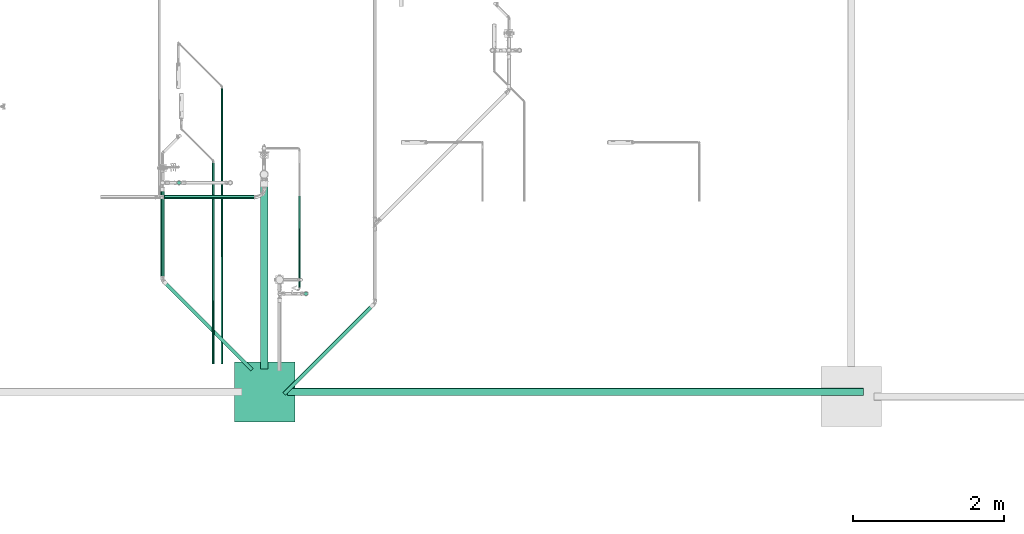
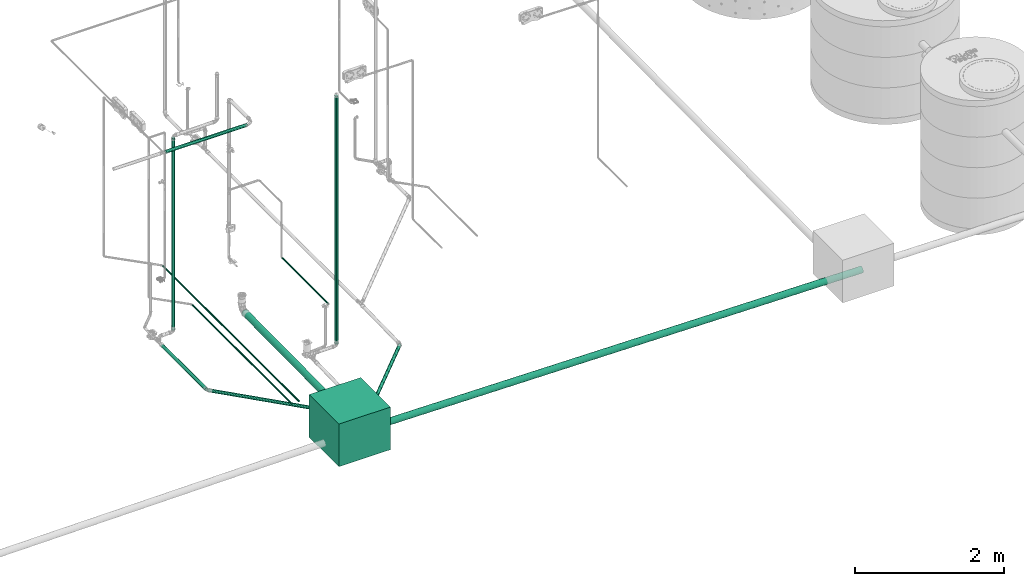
# One storey, part 13 of 589: 11 flow segments, 1 flow terminal.
"""IFC2X3 building model written with IfcOpenShell, lengths in millimetres."""

from ifc_helpers import new_model, entity, si_unit, converted_unit, derived_unit, direction, frame, frame_2d, origin, origin_2d_with_axis, place, context, subcontext, project, spatial, polyline, rectangle, circle, outline, extrude, source, transform, mapped, material, material_list, type_object, type_shapes, element, save


model = new_model("IFC2X3")

# Units and contexts
model_context = context("Model", 3, precision=0.01, world=origin(), true_north=direction((6.123031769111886e-17, 1.0)))
body_context = subcontext(model_context, "Body", "Model", "MODEL_VIEW")
ifc_project = project(units=[si_unit("LENGTHUNIT", "METRE", prefix="MILLI"), si_unit("AREAUNIT", "SQUARE_METRE"), si_unit("VOLUMEUNIT", "CUBIC_METRE"), converted_unit("PLANEANGLEUNIT", "DEGREE", entity("IfcRatioMeasure", 0.017453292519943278), si_unit("PLANEANGLEUNIT", "RADIAN"), dimensions=[0, 0, 0, 0, 0, 0, 0]), si_unit("MASSUNIT", "GRAM", prefix="KILO"), derived_unit("MASSDENSITYUNIT", [(si_unit("MASSUNIT", "GRAM", prefix="KILO"), 1), (si_unit("LENGTHUNIT", "METRE"), -3)]), derived_unit("IONCONCENTRATIONUNIT", [(si_unit("MASSUNIT", "GRAM", prefix="KILO"), 1), (si_unit("LENGTHUNIT", "METRE"), -3)]), derived_unit("MOMENTOFINERTIAUNIT", [(si_unit("LENGTHUNIT", "METRE"), 4)]), si_unit("TIMEUNIT", "SECOND"), si_unit("FREQUENCYUNIT", "HERTZ"), si_unit("THERMODYNAMICTEMPERATUREUNIT", "DEGREE_CELSIUS"), derived_unit("THERMALTRANSMITTANCEUNIT", [(si_unit("MASSUNIT", "GRAM", prefix="KILO"), 1), (si_unit("THERMODYNAMICTEMPERATUREUNIT", "KELVIN"), -1), (si_unit("TIMEUNIT", "SECOND"), -3)]), derived_unit("THERMALCONDUCTANCEUNIT", [(si_unit("MASSUNIT", "GRAM", prefix="KILO"), 1), (si_unit("THERMODYNAMICTEMPERATUREUNIT", "KELVIN"), -1), (si_unit("TIMEUNIT", "SECOND"), -3), (si_unit("LENGTHUNIT", "METRE"), 1)]), derived_unit("VOLUMETRICFLOWRATEUNIT", [(si_unit("LENGTHUNIT", "METRE"), 3), (si_unit("TIMEUNIT", "SECOND"), -1)]), derived_unit("MASSFLOWRATEUNIT", [(si_unit("MASSUNIT", "GRAM", prefix="KILO"), 1), (si_unit("TIMEUNIT", "SECOND"), -1)]), derived_unit("ROTATIONALFREQUENCYUNIT", [(si_unit("TIMEUNIT", "SECOND"), -1)]), si_unit("ELECTRICCURRENTUNIT", "AMPERE"), si_unit("ELECTRICVOLTAGEUNIT", "VOLT"), si_unit("POWERUNIT", "WATT"), si_unit("FORCEUNIT", "NEWTON", prefix="KILO"), si_unit("ILLUMINANCEUNIT", "LUX"), si_unit("LUMINOUSFLUXUNIT", "LUMEN"), si_unit("LUMINOUSINTENSITYUNIT", "CANDELA"), derived_unit("USERDEFINED", [(si_unit("MASSUNIT", "GRAM", prefix="KILO"), -1), (si_unit("LENGTHUNIT", "METRE"), -2), (si_unit("TIMEUNIT", "SECOND"), 3), (si_unit("LUMINOUSFLUXUNIT", "LUMEN"), 1)]), derived_unit("USERDEFINED", [(si_unit("MASSUNIT", "GRAM", prefix="KILO"), 1), (si_unit("TIMEUNIT", "SECOND"), -3), (si_unit("LENGTHUNIT", "METRE"), 3), (si_unit("ELECTRICCURRENTUNIT", "AMPERE"), -2)]), derived_unit("SOUNDPOWERUNIT", [(si_unit("MASSUNIT", "GRAM", prefix="KILO"), 1), (si_unit("TIMEUNIT", "SECOND"), -3), (si_unit("LENGTHUNIT", "METRE"), 2)]), derived_unit("SOUNDPRESSUREUNIT", [(si_unit("MASSUNIT", "GRAM", prefix="KILO"), 1), (si_unit("LENGTHUNIT", "METRE"), -1), (si_unit("TIMEUNIT", "SECOND"), -2)]), derived_unit("LINEARVELOCITYUNIT", [(si_unit("LENGTHUNIT", "METRE"), 1), (si_unit("TIMEUNIT", "SECOND"), -1)]), si_unit("PRESSUREUNIT", "PASCAL"), derived_unit("USERDEFINED", [(si_unit("MASSUNIT", "GRAM", prefix="KILO"), 1), (si_unit("LENGTHUNIT", "METRE"), -2), (si_unit("TIMEUNIT", "SECOND"), -2)]), derived_unit("LINEARFORCEUNIT", [(si_unit("MASSUNIT", "GRAM", prefix="KILO"), 1), (si_unit("TIMEUNIT", "SECOND"), -2)]), derived_unit("PLANARFORCEUNIT", [(si_unit("MASSUNIT", "GRAM", prefix="KILO"), 1), (si_unit("LENGTHUNIT", "METRE"), -1), (si_unit("TIMEUNIT", "SECOND"), -2)]), derived_unit("SPECIFICHEATCAPACITYUNIT", [(si_unit("THERMODYNAMICTEMPERATUREUNIT", "KELVIN"), -1), (si_unit("LENGTHUNIT", "METRE"), 2), (si_unit("TIMEUNIT", "SECOND"), -2)]), derived_unit("HEATINGVALUEUNIT", [(si_unit("LENGTHUNIT", "METRE"), 2), (si_unit("TIMEUNIT", "SECOND"), -2)]), derived_unit("VAPORPERMEABILITYUNIT", [(si_unit("LENGTHUNIT", "METRE"), -1), (si_unit("TIMEUNIT", "SECOND"), 1)]), derived_unit("DYNAMICVISCOSITYUNIT", [(si_unit("MASSUNIT", "GRAM", prefix="KILO"), 1), (si_unit("TIMEUNIT", "SECOND"), -1), (si_unit("LENGTHUNIT", "METRE"), -1)]), derived_unit("THERMALEXPANSIONCOEFFICIENTUNIT", [(si_unit("THERMODYNAMICTEMPERATUREUNIT", "KELVIN"), -1)]), derived_unit("MODULUSOFELASTICITYUNIT", [(si_unit("MASSUNIT", "GRAM", prefix="KILO"), 1), (si_unit("LENGTHUNIT", "METRE"), -1), (si_unit("TIMEUNIT", "SECOND"), -2)]), derived_unit("ISOTHERMALMOISTURECAPACITYUNIT", [(si_unit("LENGTHUNIT", "METRE"), 3), (si_unit("MASSUNIT", "GRAM", prefix="KILO"), -1)]), derived_unit("MOISTUREDIFFUSIVITYUNIT", [(si_unit("TIMEUNIT", "SECOND"), -1), (si_unit("LENGTHUNIT", "METRE"), 2)])], contexts=[model_context])

# Site, building, storey
site_placement = place(None, origin())
site = spatial("IfcSite", under=ifc_project, at=site_placement, Name="Default", CompositionType="ELEMENT")
building_placement = place(site_placement, origin())
building = spatial("IfcBuilding", under=site, at=building_placement, CompositionType="ELEMENT")
storey_placement = place(building_placement, frame((0.0, 0.0, 100.0)))
storey = spatial("IfcBuildingStorey", under=building, at=storey_placement, Name="TÉRREO", CompositionType="ELEMENT", Elevation=100.0)

# Flow segments
pipe_segment_type_1 = type_object("IfcPipeSegmentType", Name="Tipos de tubos:PVC Esgoto Série Normal", PredefinedType="NOTDEFINED")
flow_segment_1_placement = place(storey_placement, origin())
element("IfcFlowSegment", 1, at=flow_segment_1_placement, inside=storey, type_object=pipe_segment_type_1, Name="Tipos de tubos:PVC Esgoto Série Normal", ObjectType="Tipos de tubos:PVC Esgoto Série Normal", context=body_context, shape_type="SweptSolid", body=[
    extrude(circle(Radius=25.0, at=origin_2d_with_axis()), frame((9353.085385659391, -9894.030796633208, -44.267559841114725)), (0.0, 0.0, 1.0), 4069.767559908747),
])
flow_segment_2_placement = place(storey_placement, origin())
element("IfcFlowSegment", 2, at=flow_segment_2_placement, inside=storey, type_object=pipe_segment_type_1, Name="Tipos de tubos:PVC Esgoto Série Normal", ObjectType="Tipos de tubos:PVC Esgoto Série Normal", context=body_context, shape_type="SweptSolid", body=[
    extrude(circle(Radius=50.0, at=frame_2d((0.0, -3.3837905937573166e-14), x_axis=(1.0, 0.0))), frame((8798.14218843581, -10892.402293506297, -273.5003023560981), z_axis=(0.0, 0.9999500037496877, 0.009999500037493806), x_axis=(-1.0, 0.0, 0.0)), (0.0, 0.0, 1.0), 2498.2761000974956),
])
flow_segment_3_placement = place(storey_placement, origin())
element("IfcFlowSegment", 3, at=flow_segment_3_placement, inside=storey, type_object=pipe_segment_type_1, Name="Tipos de tubos:PVC Esgoto Série Normal", ObjectType="Tipos de tubos:PVC Esgoto Série Normal", context=body_context, shape_type="SweptSolid", body=[
    extrude(circle(Radius=25.0, at=frame_2d((0.0, 3.383283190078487e-14), x_axis=(1.0, 0.0))), frame((9064.494705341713, -11221.039996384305, -332.02128678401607), z_axis=(0.7070360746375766, 0.7068947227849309, 0.01999600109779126), x_axis=(-0.7070360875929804, 0.7071774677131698, 0.0)), (0.0, 0.0, 1.0), 1684.032970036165),
])
flow_segment_4_placement = place(storey_placement, origin())
element("IfcFlowSegment", 4, at=flow_segment_4_placement, inside=storey, type_object=pipe_segment_type_1, Name="Tipos de tubos:PVC Esgoto Série Normal", ObjectType="Tipos de tubos:PVC Esgoto Série Normal", context=body_context, shape_type="SweptSolid", body=[
    extrude(circle(Radius=25.0, at=frame_2d((0.0, -1.6919798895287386e-14), x_axis=(1.0, 0.0))), frame((7449.442851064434, -9698.434638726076, -246.19382382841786), z_axis=(0.0, 1.0, 0.0), x_axis=(-1.0, 0.0, 0.0)), (0.0, 0.0, 1.0), 1189.6283307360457),
])
flow_segment_5_placement = place(storey_placement, origin())
element("IfcFlowSegment", 5, at=flow_segment_5_placement, inside=storey, type_object=pipe_segment_type_1, Name="Tipos de tubos:PVC Esgoto Série Normal", ObjectType="Tipos de tubos:PVC Esgoto Série Normal", context=body_context, shape_type="SweptSolid", body=[
    extrude(circle(Radius=25.0, at=frame_2d((1.5315599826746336e-12, 6.445172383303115e-14), x_axis=(1.0, 0.0))), frame((8637.263491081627, -10901.98157596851, -280.1063824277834), z_axis=(-0.7070367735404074, 0.706894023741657, 0.01999600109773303), x_axis=(-0.707035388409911, -0.7071781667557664, 0.0)), (0.0, 0.0, 1.0), 1664.0329700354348),
])
flow_segment_6_placement = place(storey_placement, origin())
element("IfcFlowSegment", 6, at=flow_segment_6_placement, inside=storey, type_object=pipe_segment_type_1, Name="Tipos de tubos:PVC Esgoto Série Normal", ObjectType="Tipos de tubos:PVC Esgoto Série Normal", context=body_context, shape_type="SweptSolid", body=[
    extrude(circle(Radius=25.0, at=origin_2d_with_axis()), frame((7669.442851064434, -8422.90630799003, -116.85870003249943), z_axis=(0.0, 0.0, 1.0), x_axis=(-1.0, 0.0, 0.0)), (0.0, 0.0, 1.0), 3148.117400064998),
])
flow_segment_7_placement = place(storey_placement, origin())
element("IfcFlowSegment", 7, at=flow_segment_7_placement, inside=storey, type_object=pipe_segment_type_1, Name="Tipos de tubos:PVC Esgoto Série Normal", ObjectType="Tipos de tubos:PVC Esgoto Série Normal", context=body_context, shape_type="SweptSolid", body=[
    extrude(circle(Radius=50.0, at=frame_2d((0.0, -6.767581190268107e-14), x_axis=(1.0, 0.0))), frame((9106.95335718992, -11197.531283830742, -550.0), z_axis=(0.9999500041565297, 0.0, -0.009999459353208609), x_axis=(0.0, -1.0, 0.0)), (0.0, 0.0, 1.0), 7640.413076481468),
])
pipe_segment_type_2 = type_object("IfcPipeSegmentType", Name="Tipos de tubos:PVC Marrom Soldável", PredefinedType="NOTDEFINED")
flow_segment_8_placement = place(storey_placement, origin())
element("IfcFlowSegment", 8, at=flow_segment_8_placement, inside=storey, type_object=pipe_segment_type_2, Name="Tipos de tubos:PVC Marrom Soldável", ObjectType="Tipos de tubos:PVC Marrom Soldável", context=body_context, shape_type="SweptSolid", body=[
    extrude(circle(Radius=12.5, at=origin_2d_with_axis()), frame((9266.770885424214, -9827.62160557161, 599.9999690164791), z_axis=(0.0, 1.0, 0.0), x_axis=(-1.0, 0.0, 0.0)), (0.0, 0.0, 1.0), 1244.1929414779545),
])
flow_segment_9_placement = place(storey_placement, origin())
element("IfcFlowSegment", 9, at=flow_segment_9_placement, inside=storey, type_object=pipe_segment_type_2, Name="Tipos de tubos:PVC Marrom Soldável", ObjectType="Tipos de tubos:PVC Marrom Soldável", context=body_context, shape_type="SweptSolid", body=[
    extrude(circle(Radius=25.0, at=frame_2d((0.0, 5.414335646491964e-13), x_axis=(1.0, 0.0))), frame((7441.542685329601, -8612.531283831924, 2995.0), z_axis=(1.0, 0.0, 0.0), x_axis=(0.0, -1.0, 0.0)), (0.0, 0.0, 1.0), 1260.1595031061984),
])
flow_segment_10_placement = place(storey_placement, origin())
element("IfcFlowSegment", 10, at=flow_segment_10_placement, inside=storey, type_object=pipe_segment_type_2, Name="Tipos de tubos:PVC Marrom Soldável", ObjectType="Tipos de tubos:PVC Marrom Soldável", context=body_context, shape_type="SweptSolid", body=[
    extrude(circle(Radius=12.5, at=frame_2d((-2.1657342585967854e-12, -1.6919798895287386e-14), x_axis=(1.0, 0.0))), frame((8125.148464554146, -10821.462370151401, -37.3569804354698), z_axis=(0.0, 1.0, 0.0), x_axis=(-1.0, 0.0, 0.0)), (0.0, 0.0, 1.0), 2680.3628223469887),
])
flow_segment_11_placement = place(storey_placement, origin())
element("IfcFlowSegment", 11, at=flow_segment_11_placement, inside=storey, type_object=pipe_segment_type_2, Name="Tipos de tubos:PVC Marrom Soldável", ObjectType="Tipos de tubos:PVC Marrom Soldável", context=body_context, shape_type="SweptSolid", body=[
    extrude(circle(Radius=12.5, at=frame_2d((-2.1657342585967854e-12, -1.6919798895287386e-14), x_axis=(1.0, 0.0))), frame((8238.701855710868, -10821.462370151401, -37.35701269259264), z_axis=(0.0, 1.0, 0.0), x_axis=(-1.0, 0.0, 0.0)), (0.0, 0.0, 1.0), 3668.739869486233),
])

# Flow terminal
ifc_material_1 = material(Name="<Unnamed>")
ifc_material_2 = material(Name="Tijolo, Comum")
ifc_material_3 = material(Name=".CONCRETO")
ifc_material_list = material_list([ifc_material_1, ifc_material_2, ifc_material_3])
distribution_element_type = type_object("IfcDistributionElementType", Name="Caixa em Alvenaria_Rodrigo MEP:Caixa de Inspeçao de Esgoto 60x60cm - CI", material=ifc_material_list)
shared_shape = source(origin(), body_context, "Body", "SweptSolid", [
    extrude(circle(Radius=50.0, at=frame_2d((1.6919798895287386e-14, -2.0303758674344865e-13), x_axis=(1.0, 0.0))), frame((297.0, -150.0, -550.0), z_axis=(1.0, 0.0, 0.0), x_axis=(0.0, -1.0, 0.0)), (0.0, 0.0, 1.0), 2.9999999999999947),
    extrude(circle(Radius=50.0, at=frame_2d((0.0, -2.0303758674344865e-13), x_axis=(1.0, 0.0))), frame((297.0, 150.0, -550.0), z_axis=(1.0, 0.0, 0.0), x_axis=(0.0, -1.0, 0.0)), (0.0, 0.0, 1.0), 2.9999999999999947),
    extrude(circle(Radius=50.0, at=frame_2d((0.0, -6.767919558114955e-14), x_axis=(1.0, 0.0))), frame((-300.0, 136.27378055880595, -550.0), z_axis=(1.0, 0.0, 0.0), x_axis=(0.0, 1.0, 0.0)), (0.0, 0.0, 1.0), 2.9999999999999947),
    extrude(circle(Radius=50.0, at=frame_2d((-1.6919798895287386e-14, -6.767919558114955e-14), x_axis=(1.0, 0.0))), frame((-300.0, -150.0, -550.0), z_axis=(1.0, 0.0, 0.0), x_axis=(0.0, 1.0, 0.0)), (0.0, 0.0, 1.0), 2.9999999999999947),
    extrude(circle(Radius=50.0, at=frame_2d((-1.6919798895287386e-14, -2.707167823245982e-13), x_axis=(1.0, 0.0))), frame((150.0, 297.0, -550.0), z_axis=(0.0, 1.0, 0.0), x_axis=(1.0, 0.0, 0.0)), (0.0, 0.0, 1.0), 2.9999999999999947),
    extrude(circle(Radius=50.0, at=frame_2d((0.0, -2.707167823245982e-13), x_axis=(1.0, 0.0))), frame((-150.0, 297.0, -550.0), z_axis=(0.0, 1.0, 0.0), x_axis=(1.0, 0.0, 0.0)), (0.0, 0.0, 1.0), 2.9999999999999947),
    extrude(circle(Radius=50.0, at=frame_2d((-1.307310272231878e-17, -2.707167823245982e-13), x_axis=(1.0, 0.0))), frame((297.0, 0.0, -550.0), z_axis=(1.0, 0.0, 0.0), x_axis=(0.0, -1.0, 0.0)), (0.0, 0.0, 1.0), 2.9999999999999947),
    extrude(circle(Radius=50.0, at=frame_2d((1.9003610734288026e-15, -6.767919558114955e-14), x_axis=(1.0, 0.0))), frame((-300.0, 0.0, -550.0), z_axis=(1.0, 0.0, 0.0), x_axis=(0.0, 1.0, 0.0)), (0.0, 0.0, 1.0), 2.9999999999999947),
    extrude(circle(Radius=50.0, at=frame_2d((-1.9105340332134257e-15, -2.707167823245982e-13), x_axis=(1.0, 0.0))), frame((0.0, 297.0, -550.0), z_axis=(0.0, 1.0, 0.0), x_axis=(1.0, 0.0, 0.0)), (0.0, 0.0, 1.0), 2.9999999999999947),
    extrude(outline(polyline([(-400.0, -400.0), (400.0, -400.0), (400.0, 400.0), (-400.0, 400.0), (-400.0, -400.0)]), holes=[polyline([(-300.0, 300.0), (300.0, 300.0), (300.0, -300.0), (-300.0, -300.0), (-300.0, 300.0)])]), frame((0.0, 0.0, -600.0)), (0.0, 0.0, 1.0), 599.9999999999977),
    extrude(rectangle(XDim=798.0000000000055, YDim=798.0, at=origin_2d_with_axis()), frame((0.0, 0.0, -700.0), z_axis=(0.0, 0.0, 1.0), x_axis=(-1.0, 0.0, 0.0)), (0.0, 0.0, 1.0), 99.99999999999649),
    extrude(circle(Radius=50.0, at=frame_2d((0.0, -2.707167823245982e-13), x_axis=(1.0, 0.0))), frame((0.0, -300.0, -550.0), z_axis=(0.0, 1.0, 0.0), x_axis=(1.0, 0.0, 0.0)), (0.0, 0.0, 1.0), 0.9999999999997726),
    extrude(rectangle(XDim=599.9999999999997, YDim=599.9999999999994, at=origin_2d_with_axis()), frame((0.0, 0.0, -50.51158969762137), z_axis=(0.0, 0.0, 1.0), x_axis=(0.0, 1.0, 0.0)), (0.0, 0.0, 1.0), 50.51158969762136),
])
type_shapes(distribution_element_type, [shared_shape])
flow_terminal_placement = place(storey_placement, frame((8807.167312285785, -11197.531283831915, 0.0), z_axis=(0.0, 0.0, 1.0), x_axis=(0.0, -1.0, 0.0)))
element("IfcFlowTerminal", 12, at=flow_terminal_placement, inside=storey, type_object=distribution_element_type, material=ifc_material_list, Name="Caixa em Alvenaria_Rodrigo MEP:Caixa de Inspeçao de Esgoto 60x60cm - CI", ObjectType="Caixa em Alvenaria_Rodrigo MEP:Caixa de Inspeçao de Esgoto 60x60cm - CI", context=body_context, shape_type="MappedRepresentation", body=[
    mapped(shared_shape, transform((0.0, 0.0, 0.0), scale=1.0)),
])

save(model, "model.ifc")
